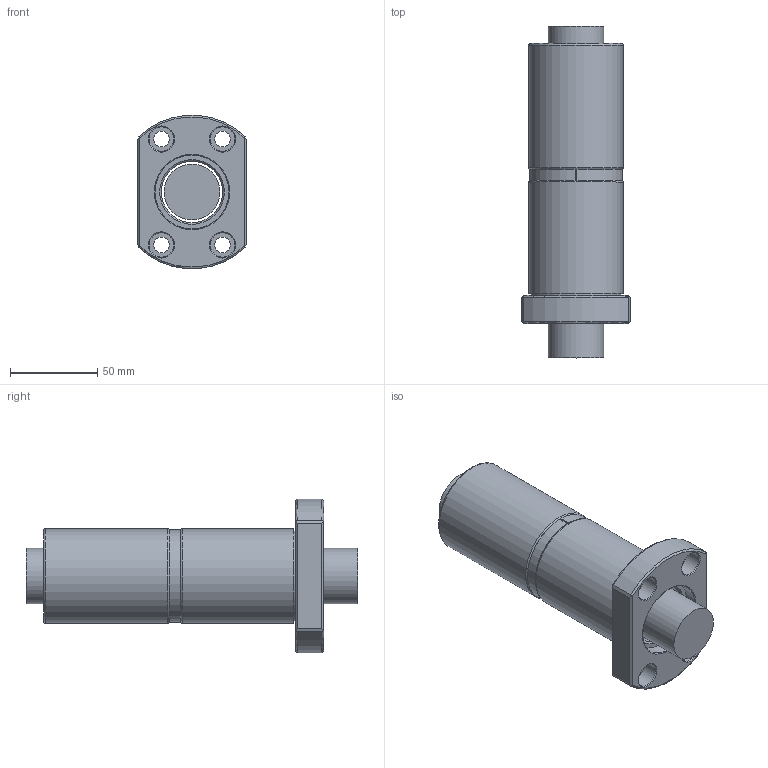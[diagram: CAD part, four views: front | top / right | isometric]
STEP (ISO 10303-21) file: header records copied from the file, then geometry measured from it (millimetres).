
FILE_DESCRIPTION(/* description */ (''),/* implementation_level */ '2;1');
FILE_NAME(/* name */ '3210.prt.step',/* time_stamp */ '2008-12-05T09:21:52+08:00',/* author */ (''),/* organization */ (''),/* preprocessor_version */ 'ST-DEVELOPER v11',/* originating_system */ 'SIEMENS UGS NX 6.0',/* authorisation */ '');
FILE_SCHEMA (('AUTOMOTIVE_DESIGN { 1 0 10303 214 1 1 1 1 }'));
Length unit declared in the file: millimetre
Products named in the file (1): 3210
Bounding box: 62 x 190 x 87.69 mm (x, y, z)
Volume: 390911.8 mm3; surface area: 82045.3 mm2
Topology: 5 solids, 5 shells, 77 faces, 165 edges, 108 vertices
Faces by surface type: plane 34, cylinder 24, cone 10, torus 9
Full cylindrical faces by diameter (mm): 9 x4, 14 x4, 31.95 x1, 35 x2, 40 x2, 42.3 x2, 52.004 x1, 54 x2
Entity records: 2118 total; most frequent: CARTESIAN_POINT 528, DIRECTION 330, ORIENTED_EDGE 246, AXIS2_PLACEMENT_3D 145, EDGE_LOOP 132, EDGE_CURVE 123, FACE_BOUND 102, VERTEX_POINT 99
